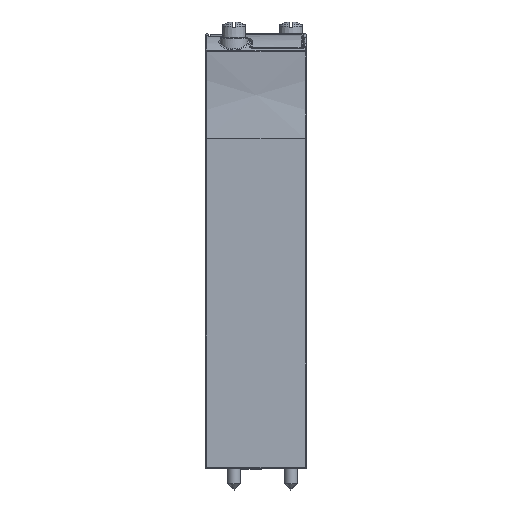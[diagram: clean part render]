
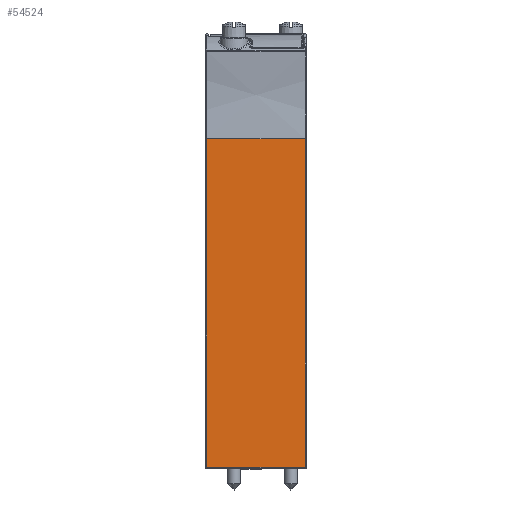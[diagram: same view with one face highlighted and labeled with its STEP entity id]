
A CAD part, front view. The second image highlights one B-rep face of the part: STEP entity #54524.
In plain terms, the highlighted planar face has unit normal (-0.009, -1, 0).
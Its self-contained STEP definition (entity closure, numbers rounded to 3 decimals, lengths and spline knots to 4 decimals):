
#7611=DIRECTION('',(0.,0.,1.));
#7612=VECTOR('',#7611,2.502);
#7613=CARTESIAN_POINT('',(0.0099,-2.0438,0.01));
#7614=LINE('',#7613,#7612);
#8070=DIRECTION('',(-1.,0.009,0.));
#8071=VECTOR('',#8070,0.749);
#8072=CARTESIAN_POINT('',(0.7589,-2.0503,0.01));
#8073=LINE('',#8072,#8071);
#8102=DIRECTION('',(1.,-0.009,0.001));
#8103=VECTOR('',#8102,0.749);
#8104=CARTESIAN_POINT('',(0.0099,-2.0438,
2.512));
#8105=LINE('',#8104,#8103);
#22723=DIRECTION('',(0.,0.,-1.));
#22724=VECTOR('',#22723,2.5025);
#22725=CARTESIAN_POINT('',(0.7589,-2.0503,
2.5125));
#22726=LINE('',#22725,#22724);
#38980=CARTESIAN_POINT('',(0.0099,-2.0438,0.01));
#38981=CARTESIAN_POINT('',(0.0099,-2.0438,
2.512));
#38982=VERTEX_POINT('',#38980);
#38983=VERTEX_POINT('',#38981);
#38988=CARTESIAN_POINT('',(0.7589,-2.0503,
2.5125));
#38989=CARTESIAN_POINT('',(0.7589,-2.0503,0.01));
#38990=VERTEX_POINT('',#38988);
#38991=VERTEX_POINT('',#38989);
#54511=CARTESIAN_POINT('',(0.719,-2.05,4.34));
#54512=DIRECTION('',(-0.009,-1.,0.));
#54513=DIRECTION('',(0.,0.,-1.));
#54514=AXIS2_PLACEMENT_3D('',#54511,#54512,#54513);
#54515=PLANE('',#54514);
#54516=ORIENTED_EDGE('',*,*,#53801,.T.);
#54518=ORIENTED_EDGE('',*,*,#54517,.T.);
#54520=ORIENTED_EDGE('',*,*,#54519,.T.);
#54521=ORIENTED_EDGE('',*,*,#54470,.T.);
#54522=EDGE_LOOP('',(#54516,#54518,#54520,#54521));
#54523=FACE_OUTER_BOUND('',#54522,.F.);
#54524=ADVANCED_FACE('',(#54523),#54515,.T.);
#53801=EDGE_CURVE('',#38982,#38983,#7614,.T.);
#54470=EDGE_CURVE('',#38991,#38982,#8073,.T.);
#54517=EDGE_CURVE('',#38983,#38990,#8105,.T.);
#54519=EDGE_CURVE('',#38990,#38991,#22726,.T.);
